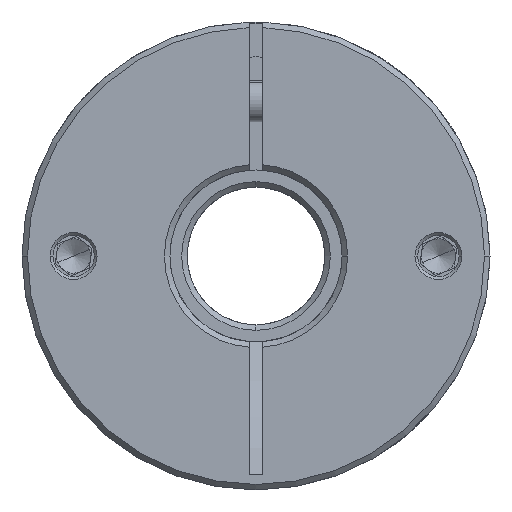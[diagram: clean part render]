
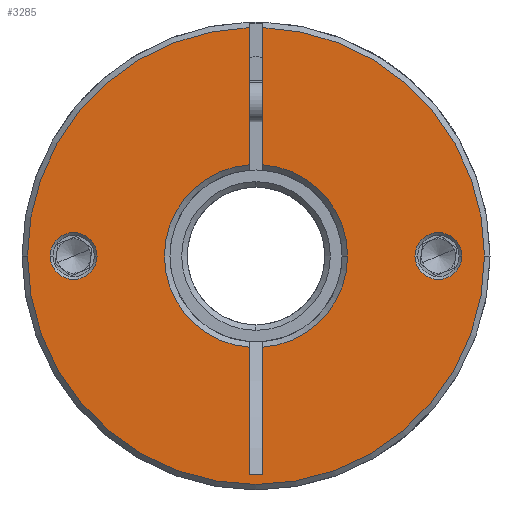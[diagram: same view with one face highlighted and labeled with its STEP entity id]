
A CAD part, front view. The second image highlights one B-rep face of the part: STEP entity #3285.
In plain terms, the highlighted planar face has unit normal (0, -1, 0).
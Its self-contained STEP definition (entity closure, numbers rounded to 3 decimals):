
#63 = ORIENTED_EDGE ( 'NONE', *, *, #10480, .T. ) ;
#126 = EDGE_CURVE ( 'NONE', #3760, #7757, #4126, .T. ) ;
#172 = DIRECTION ( 'NONE',  ( 0., -1., 0. ) ) ;
#222 = ORIENTED_EDGE ( 'NONE', *, *, #10064, .T. ) ;
#424 = ORIENTED_EDGE ( 'NONE', *, *, #8197, .T. ) ;
#484 = CARTESIAN_POINT ( 'NONE',  ( -29.235, -47.045, 68. ) ) ;
#610 = CIRCLE ( 'NONE', #5807, 3.4 ) ;
#830 = CIRCLE ( 'NONE', #3791, 13.3 ) ;
#957 = CARTESIAN_POINT ( 'NONE',  ( 23.765, -47.045, 68. ) ) ;
#979 = VERTEX_POINT ( 'NONE', #4169 ) ;
#1074 = DIRECTION ( 'NONE',  ( 0., -1., 0. ) ) ;
#1349 = EDGE_LOOP ( 'NONE', ( #8659, #5287, #10728, #5758, #63, #424, #222, #7940, #2930, #9289, #11107 ) ) ;
#1439 = DIRECTION ( 'NONE',  ( 0., 0., -1. ) ) ;
#1603 = CARTESIAN_POINT ( 'NONE',  ( 27.165, -47.045, 68. ) ) ;
#1606 = DIRECTION ( 'NONE',  ( 0., 1., 0. ) ) ;
#1631 = LINE ( 'NONE', #12581, #5159 ) ;
#1682 = AXIS2_PLACEMENT_3D ( 'NONE', #4060, #5143, #10506 ) ;
#1878 = VERTEX_POINT ( 'NONE', #4913 ) ;
#1891 = AXIS2_PLACEMENT_3D ( 'NONE', #11853, #7735, #9820 ) ;
#2080 = CARTESIAN_POINT ( 'NONE',  ( 10.565, -47.045, 68. ) ) ;
#2169 = CARTESIAN_POINT ( 'NONE',  ( -2.735, -47.045, 68. ) ) ;
#2177 = EDGE_LOOP ( 'NONE', ( #10500, #3637 ) ) ;
#2287 = DIRECTION ( 'NONE',  ( 0., 1., 0. ) ) ;
#2450 = CARTESIAN_POINT ( 'NONE',  ( -1.735, -47.045, 68. ) ) ;
#2554 = CIRCLE ( 'NONE', #10627, 33.2 ) ;
#2574 = EDGE_CURVE ( 'NONE', #3760, #6581, #1631, .T. ) ;
#2703 = DIRECTION ( 'NONE',  ( 0., 1., 0. ) ) ;
#2747 = LINE ( 'NONE', #6878, #13158 ) ;
#2930 = ORIENTED_EDGE ( 'NONE', *, *, #5561, .T. ) ;
#3165 = CARTESIAN_POINT ( 'NONE',  ( -3.735, -47.045, 101.185 ) ) ;
#3285 = ADVANCED_FACE ( 'NONE', ( #12472, #10701, #7288 ), #9521, .T. ) ;
#3383 = EDGE_CURVE ( 'NONE', #9204, #6581, #7782, .T. ) ;
#3441 = EDGE_CURVE ( 'NONE', #5079, #1878, #610, .T. ) ;
#3634 = DIRECTION ( 'NONE',  ( 0., 0., -1. ) ) ;
#3637 = ORIENTED_EDGE ( 'NONE', *, *, #9186, .T. ) ;
#3638 = CARTESIAN_POINT ( 'NONE',  ( -2.735, -47.045, 68. ) ) ;
#3663 = DIRECTION ( 'NONE',  ( 1., 0., 0. ) ) ;
#3755 = DIRECTION ( 'NONE',  ( 0., 1., 0. ) ) ;
#3760 = VERTEX_POINT ( 'NONE', #3165 ) ;
#3791 = AXIS2_PLACEMENT_3D ( 'NONE', #8874, #3755, #3663 ) ;
#3844 = AXIS2_PLACEMENT_3D ( 'NONE', #3638, #11881, #11921 ) ;
#3894 = EDGE_CURVE ( 'NONE', #6126, #6927, #7440, .T. ) ;
#4060 = CARTESIAN_POINT ( 'NONE',  ( -2.735, -47.045, 68. ) ) ;
#4126 = CIRCLE ( 'NONE', #1891, 33.2 ) ;
#4169 = CARTESIAN_POINT ( 'NONE',  ( 20.365, -47.045, 68. ) ) ;
#4436 = DIRECTION ( 'NONE',  ( 0., 0., -1. ) ) ;
#4522 = VECTOR ( 'NONE', #1439, 1000. ) ;
#4660 = CIRCLE ( 'NONE', #8358, 3.4 ) ;
#4913 = CARTESIAN_POINT ( 'NONE',  ( -32.635, -47.045, 68. ) ) ;
#5060 = CARTESIAN_POINT ( 'NONE',  ( -3.735, -47.045, 36.279 ) ) ;
#5079 = VERTEX_POINT ( 'NONE', #5128 ) ;
#5128 = CARTESIAN_POINT ( 'NONE',  ( -25.835, -47.045, 68. ) ) ;
#5143 = DIRECTION ( 'NONE',  ( 0., -1., 0. ) ) ;
#5159 = VECTOR ( 'NONE', #8589, 1000. ) ;
#5287 = ORIENTED_EDGE ( 'NONE', *, *, #126, .T. ) ;
#5559 = CARTESIAN_POINT ( 'NONE',  ( -3.735, -47.045, 68. ) ) ;
#5561 = EDGE_CURVE ( 'NONE', #6927, #9276, #5676, .T. ) ;
#5676 = LINE ( 'NONE', #5060, #6173 ) ;
#5712 = AXIS2_PLACEMENT_3D ( 'NONE', #12558, #6408, #7394 ) ;
#5758 = ORIENTED_EDGE ( 'NONE', *, *, #10730, .T. ) ;
#5807 = AXIS2_PLACEMENT_3D ( 'NONE', #9728, #1606, #10893 ) ;
#5926 = ORIENTED_EDGE ( 'NONE', *, *, #9761, .T. ) ;
#5936 = EDGE_LOOP ( 'NONE', ( #13173, #5926 ) ) ;
#6126 = VERTEX_POINT ( 'NONE', #9286 ) ;
#6143 = DIRECTION ( 'NONE',  ( 0., 1., 0. ) ) ;
#6173 = VECTOR ( 'NONE', #10207, 1000. ) ;
#6402 = VERTEX_POINT ( 'NONE', #7547 ) ;
#6408 = DIRECTION ( 'NONE',  ( 0., 1., 0. ) ) ;
#6446 = CIRCLE ( 'NONE', #10953, 33.2 ) ;
#6492 = CARTESIAN_POINT ( 'NONE',  ( -2.735, -47.045, 68. ) ) ;
#6581 = VERTEX_POINT ( 'NONE', #8900 ) ;
#6794 = EDGE_CURVE ( 'NONE', #9204, #9276, #10265, .T. ) ;
#6878 = CARTESIAN_POINT ( 'NONE',  ( -1.735, -47.045, 68. ) ) ;
#6927 = VERTEX_POINT ( 'NONE', #10991 ) ;
#7212 = CARTESIAN_POINT ( 'NONE',  ( -3.735, -47.045, 54.738 ) ) ;
#7282 = DIRECTION ( 'NONE',  ( 1., 0., 0. ) ) ;
#7288 = FACE_OUTER_BOUND ( 'NONE', #1349, .T. ) ;
#7387 = VERTEX_POINT ( 'NONE', #1603 ) ;
#7394 = DIRECTION ( 'NONE',  ( 1., 0., 0. ) ) ;
#7438 = CARTESIAN_POINT ( 'NONE',  ( -3.735, -47.045, 36.279 ) ) ;
#7440 = LINE ( 'NONE', #2450, #7588 ) ;
#7547 = CARTESIAN_POINT ( 'NONE',  ( -1.735, -47.045, 81.262 ) ) ;
#7565 = DIRECTION ( 'NONE',  ( 1., 0., 0. ) ) ;
#7588 = VECTOR ( 'NONE', #4436, 1000. ) ;
#7735 = DIRECTION ( 'NONE',  ( 0., -1., 0. ) ) ;
#7757 = VERTEX_POINT ( 'NONE', #7875 ) ;
#7782 = CIRCLE ( 'NONE', #12800, 13.3 ) ;
#7875 = CARTESIAN_POINT ( 'NONE',  ( -35.935, -47.045, 68. ) ) ;
#7940 = ORIENTED_EDGE ( 'NONE', *, *, #3894, .T. ) ;
#7942 = DIRECTION ( 'NONE',  ( 1., 0., 0. ) ) ;
#8172 = AXIS2_PLACEMENT_3D ( 'NONE', #957, #6143, #13435 ) ;
#8197 = EDGE_CURVE ( 'NONE', #6402, #11616, #10436, .T. ) ;
#8358 = AXIS2_PLACEMENT_3D ( 'NONE', #484, #2703, #7942 ) ;
#8589 = DIRECTION ( 'NONE',  ( 0., 0., -1. ) ) ;
#8659 = ORIENTED_EDGE ( 'NONE', *, *, #2574, .F. ) ;
#8874 = CARTESIAN_POINT ( 'NONE',  ( -2.735, -47.045, 68. ) ) ;
#8900 = CARTESIAN_POINT ( 'NONE',  ( -3.735, -47.045, 81.262 ) ) ;
#9186 = EDGE_CURVE ( 'NONE', #979, #7387, #12523, .T. ) ;
#9204 = VERTEX_POINT ( 'NONE', #7212 ) ;
#9276 = VERTEX_POINT ( 'NONE', #7438 ) ;
#9286 = CARTESIAN_POINT ( 'NONE',  ( -1.735, -47.045, 54.738 ) ) ;
#9289 = ORIENTED_EDGE ( 'NONE', *, *, #6794, .F. ) ;
#9521 = PLANE ( 'NONE',  #1682 ) ;
#9641 = DIRECTION ( 'NONE',  ( 1., 0., 0. ) ) ;
#9642 = VERTEX_POINT ( 'NONE', #10114 ) ;
#9728 = CARTESIAN_POINT ( 'NONE',  ( -29.235, -47.045, 68. ) ) ;
#9761 = EDGE_CURVE ( 'NONE', #1878, #5079, #4660, .T. ) ;
#9820 = DIRECTION ( 'NONE',  ( 1., 0., 0. ) ) ;
#10064 = EDGE_CURVE ( 'NONE', #11616, #6126, #830, .T. ) ;
#10114 = CARTESIAN_POINT ( 'NONE',  ( 30.465, -47.045, 68. ) ) ;
#10207 = DIRECTION ( 'NONE',  ( -1., 0., 0. ) ) ;
#10265 = LINE ( 'NONE', #5559, #4522 ) ;
#10436 = CIRCLE ( 'NONE', #3844, 13.3 ) ;
#10480 = EDGE_CURVE ( 'NONE', #11039, #6402, #2747, .T. ) ;
#10500 = ORIENTED_EDGE ( 'NONE', *, *, #11410, .T. ) ;
#10506 = DIRECTION ( 'NONE',  ( 1., 0., 0. ) ) ;
#10627 = AXIS2_PLACEMENT_3D ( 'NONE', #2169, #1074, #7282 ) ;
#10701 = FACE_BOUND ( 'NONE', #5936, .T. ) ;
#10728 = ORIENTED_EDGE ( 'NONE', *, *, #11714, .T. ) ;
#10730 = EDGE_CURVE ( 'NONE', #9642, #11039, #6446, .T. ) ;
#10893 = DIRECTION ( 'NONE',  ( 1., 0., 0. ) ) ;
#10953 = AXIS2_PLACEMENT_3D ( 'NONE', #6492, #172, #7565 ) ;
#10991 = CARTESIAN_POINT ( 'NONE',  ( -1.735, -47.045, 36.279 ) ) ;
#11039 = VERTEX_POINT ( 'NONE', #12578 ) ;
#11107 = ORIENTED_EDGE ( 'NONE', *, *, #3383, .T. ) ;
#11410 = EDGE_CURVE ( 'NONE', #7387, #979, #12130, .T. ) ;
#11616 = VERTEX_POINT ( 'NONE', #2080 ) ;
#11714 = EDGE_CURVE ( 'NONE', #7757, #9642, #2554, .T. ) ;
#11853 = CARTESIAN_POINT ( 'NONE',  ( -2.735, -47.045, 68. ) ) ;
#11881 = DIRECTION ( 'NONE',  ( 0., 1., 0. ) ) ;
#11921 = DIRECTION ( 'NONE',  ( 1., 0., 0. ) ) ;
#12130 = CIRCLE ( 'NONE', #5712, 3.4 ) ;
#12472 = FACE_BOUND ( 'NONE', #2177, .T. ) ;
#12523 = CIRCLE ( 'NONE', #8172, 3.4 ) ;
#12558 = CARTESIAN_POINT ( 'NONE',  ( 23.765, -47.045, 68. ) ) ;
#12578 = CARTESIAN_POINT ( 'NONE',  ( -1.735, -47.045, 101.185 ) ) ;
#12581 = CARTESIAN_POINT ( 'NONE',  ( -3.735, -47.045, 68. ) ) ;
#12723 = CARTESIAN_POINT ( 'NONE',  ( -2.735, -47.045, 68. ) ) ;
#12800 = AXIS2_PLACEMENT_3D ( 'NONE', #12723, #2287, #9641 ) ;
#13158 = VECTOR ( 'NONE', #3634, 1000. ) ;
#13173 = ORIENTED_EDGE ( 'NONE', *, *, #3441, .T. ) ;
#13435 = DIRECTION ( 'NONE',  ( 1., 0., 0. ) ) ;
